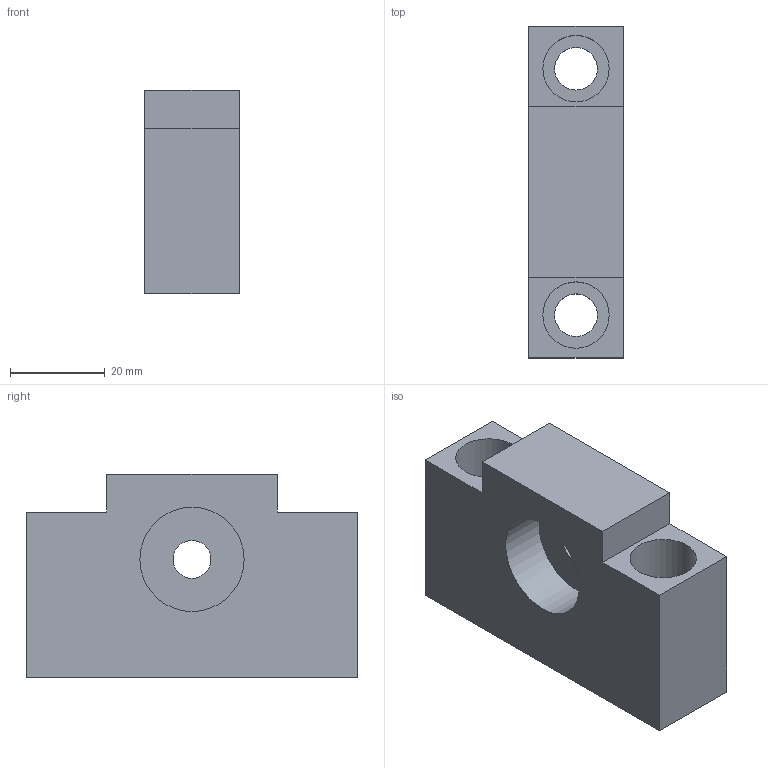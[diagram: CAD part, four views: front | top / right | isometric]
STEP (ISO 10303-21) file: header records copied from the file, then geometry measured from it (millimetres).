
FILE_DESCRIPTION(/* description */ (''),/* implementation_level */ '2;1');
FILE_NAME(/* name */ 'AF10-STP.stp',/* time_stamp */ '2019-11-18T10:51:27+08:00',/* author */ (''),/* organization */ (''),/* preprocessor_version */ 'ST-DEVELOPER v14',/* originating_system */ 'SIEMENS PLM Software NX 8.0',/* authorisation */ '');
FILE_SCHEMA (('AUTOMOTIVE_DESIGN { 1 0 10303 214 3 1 1 1 }'));
Length unit declared in the file: millimetre
Products named in the file (3): 708; AF10-A; AF10
Assembly tree (2 placements, depth 2):
  AF10
    AF10-A
    708
Bounding box: 20 x 70 x 43 mm (x, y, z)
Volume: 43026.2 mm3; surface area: 14007.8 mm2
Topology: 2 solids, 2 shells, 21 faces, 47 edges, 32 vertices
Faces by surface type: plane 14, cylinder 7
Full cylindrical faces by diameter (mm): 8 x1, 9 x2, 14 x2, 22 x2
Entity records: 622 total; most frequent: DIRECTION 100, CARTESIAN_POINT 92, ORIENTED_EDGE 76, EDGE_LOOP 38, EDGE_CURVE 38, AXIS2_PLACEMENT_3D 38, FACE_BOUND 33, VERTEX_POINT 30
